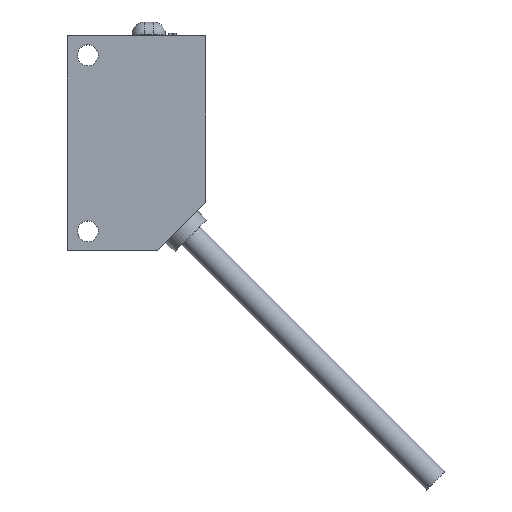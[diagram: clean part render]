
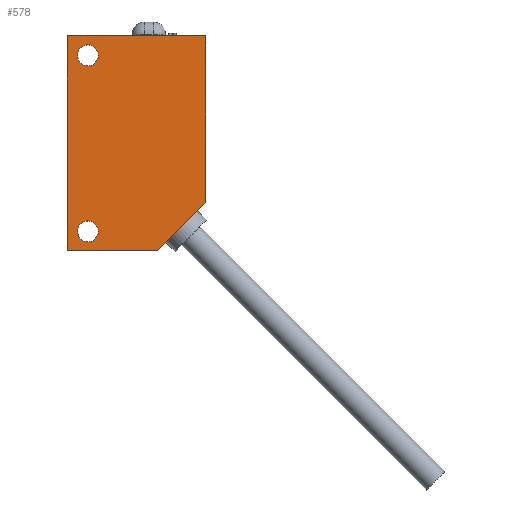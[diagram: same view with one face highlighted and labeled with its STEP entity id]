
A CAD part, top view. The second image highlights one B-rep face of the part: STEP entity #578.
In plain terms, the highlighted planar face has unit normal (0, 0, 1).
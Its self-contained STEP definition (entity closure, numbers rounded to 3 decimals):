
#50 = VERTEX_POINT ( 'NONE', #1177 ) ;
#63 = VERTEX_POINT ( 'NONE', #1158 ) ;
#67 = EDGE_CURVE ( 'NONE', #63, #68, #1260, .T. ) ;
#68 = VERTEX_POINT ( 'NONE', #1255 ) ;
#74 = VERTEX_POINT ( 'NONE', #1243 ) ;
#87 = EDGE_CURVE ( 'NONE', #50, #74, #1114, .T. ) ;
#120 = EDGE_CURVE ( 'NONE', #369, #367, #1193, .T. ) ;
#367 = VERTEX_POINT ( 'NONE', #1537 ) ;
#369 = VERTEX_POINT ( 'NONE', #1536 ) ;
#391 = VERTEX_POINT ( 'NONE', #1729 ) ;
#400 = VERTEX_POINT ( 'NONE', #1683 ) ;
#401 = EDGE_CURVE ( 'NONE', #391, #550, #1682, .T. ) ;
#402 = EDGE_CURVE ( 'NONE', #550, #400, #1678, .T. ) ;
#407 = ORIENTED_EDGE ( 'NONE', *, *, #476, .F. ) ;
#408 = ORIENTED_EDGE ( 'NONE', *, *, #120, .T. ) ;
#409 = ORIENTED_EDGE ( 'NONE', *, *, #509, .T. ) ;
#445 = EDGE_LOOP ( 'NONE', ( #407, #586 ) ) ;
#476 = EDGE_CURVE ( 'NONE', #68, #63, #1947, .T. ) ;
#477 = EDGE_LOOP ( 'NONE', ( #584, #585, #484, #408, #409 ) ) ;
#484 = ORIENTED_EDGE ( 'NONE', *, *, #583, .T. ) ;
#509 = EDGE_CURVE ( 'NONE', #367, #391, #1928, .T. ) ;
#550 = VERTEX_POINT ( 'NONE', #1828 ) ;
#578 = ADVANCED_FACE ( 'NONE', ( #1769, #1768, #1767 ), #1766, .T. ) ;
#579 = EDGE_LOOP ( 'NONE', ( #580, #587 ) ) ;
#580 = ORIENTED_EDGE ( 'NONE', *, *, #581, .F. ) ;
#581 = EDGE_CURVE ( 'NONE', #74, #50, #1761, .T. ) ;
#583 = EDGE_CURVE ( 'NONE', #400, #369, #1756, .T. ) ;
#584 = ORIENTED_EDGE ( 'NONE', *, *, #401, .T. ) ;
#585 = ORIENTED_EDGE ( 'NONE', *, *, #402, .T. ) ;
#586 = ORIENTED_EDGE ( 'NONE', *, *, #67, .F. ) ;
#587 = ORIENTED_EDGE ( 'NONE', *, *, #87, .F. ) ;
#1110 = DIRECTION ( 'NONE',  ( 1., 0., 0. ) ) ;
#1111 = DIRECTION ( 'NONE',  ( 0., 0., 1. ) ) ;
#1112 = CARTESIAN_POINT ( 'NONE',  ( 3., -2.8, 5.6 ) ) ;
#1113 = AXIS2_PLACEMENT_3D ( 'NONE', #1112, #1111, #1110 ) ;
#1114 = CIRCLE ( 'NONE', #1113, 1.5 ) ;
#1158 = CARTESIAN_POINT ( 'NONE',  ( 1.5, -28.2, 5.6 ) ) ;
#1177 = CARTESIAN_POINT ( 'NONE',  ( 1.5, -2.8, 5.6 ) ) ;
#1190 = DIRECTION ( 'NONE',  ( -1., 0., 0. ) ) ;
#1191 = VECTOR ( 'NONE', #1190, 1000. ) ;
#1192 = CARTESIAN_POINT ( 'NONE',  ( 0., 0., 5.6 ) ) ;
#1193 = LINE ( 'NONE', #1192, #1191 ) ;
#1243 = CARTESIAN_POINT ( 'NONE',  ( 4.5, -2.8, 5.6 ) ) ;
#1255 = CARTESIAN_POINT ( 'NONE',  ( 4.5, -28.2, 5.6 ) ) ;
#1256 = DIRECTION ( 'NONE',  ( 1., 0., 0. ) ) ;
#1257 = DIRECTION ( 'NONE',  ( 0., 0., 1. ) ) ;
#1258 = CARTESIAN_POINT ( 'NONE',  ( 3., -28.2, 5.6 ) ) ;
#1259 = AXIS2_PLACEMENT_3D ( 'NONE', #1258, #1257, #1256 ) ;
#1260 = CIRCLE ( 'NONE', #1259, 1.5 ) ;
#1536 = CARTESIAN_POINT ( 'NONE',  ( 20., 0., 5.6 ) ) ;
#1537 = CARTESIAN_POINT ( 'NONE',  ( 0., 0., 5.6 ) ) ;
#1675 = DIRECTION ( 'NONE',  ( 0.707, 0.707, 0. ) ) ;
#1676 = VECTOR ( 'NONE', #1675, 1000. ) ;
#1677 = CARTESIAN_POINT ( 'NONE',  ( 6.5, -37.5, 5.6 ) ) ;
#1678 = LINE ( 'NONE', #1677, #1676 ) ;
#1679 = DIRECTION ( 'NONE',  ( 1., 0., 0. ) ) ;
#1680 = VECTOR ( 'NONE', #1679, 1000. ) ;
#1681 = CARTESIAN_POINT ( 'NONE',  ( 0., -31., 5.6 ) ) ;
#1682 = LINE ( 'NONE', #1681, #1680 ) ;
#1683 = CARTESIAN_POINT ( 'NONE',  ( 20., -24., 5.6 ) ) ;
#1729 = CARTESIAN_POINT ( 'NONE',  ( 0., -31., 5.6 ) ) ;
#1753 = DIRECTION ( 'NONE',  ( 0., 1., 0. ) ) ;
#1754 = VECTOR ( 'NONE', #1753, 1000. ) ;
#1755 = CARTESIAN_POINT ( 'NONE',  ( 20., 0., 5.6 ) ) ;
#1756 = LINE ( 'NONE', #1755, #1754 ) ;
#1757 = DIRECTION ( 'NONE',  ( 1., 0., 0. ) ) ;
#1758 = DIRECTION ( 'NONE',  ( 0., 0., 1. ) ) ;
#1759 = CARTESIAN_POINT ( 'NONE',  ( 3., -2.8, 5.6 ) ) ;
#1760 = AXIS2_PLACEMENT_3D ( 'NONE', #1759, #1758, #1757 ) ;
#1761 = CIRCLE ( 'NONE', #1760, 1.5 ) ;
#1762 = DIRECTION ( 'NONE',  ( 1., 0., 0. ) ) ;
#1763 = DIRECTION ( 'NONE',  ( 0., 0., 1. ) ) ;
#1764 = CARTESIAN_POINT ( 'NONE',  ( 0., -31., 5.6 ) ) ;
#1765 = AXIS2_PLACEMENT_3D ( 'NONE', #1764, #1763, #1762 ) ;
#1766 = PLANE ( 'NONE',  #1765 ) ;
#1767 = FACE_OUTER_BOUND ( 'NONE', #477, .T. ) ;
#1768 = FACE_BOUND ( 'NONE', #579, .T. ) ;
#1769 = FACE_BOUND ( 'NONE', #445, .T. ) ;
#1828 = CARTESIAN_POINT ( 'NONE',  ( 13., -31., 5.6 ) ) ;
#1925 = DIRECTION ( 'NONE',  ( 0., -1., 0. ) ) ;
#1926 = VECTOR ( 'NONE', #1925, 1000. ) ;
#1927 = CARTESIAN_POINT ( 'NONE',  ( 0., 0., 5.6 ) ) ;
#1928 = LINE ( 'NONE', #1927, #1926 ) ;
#1943 = DIRECTION ( 'NONE',  ( 1., 0., 0. ) ) ;
#1944 = DIRECTION ( 'NONE',  ( 0., 0., 1. ) ) ;
#1945 = CARTESIAN_POINT ( 'NONE',  ( 3., -28.2, 5.6 ) ) ;
#1946 = AXIS2_PLACEMENT_3D ( 'NONE', #1945, #1944, #1943 ) ;
#1947 = CIRCLE ( 'NONE', #1946, 1.5 ) ;
